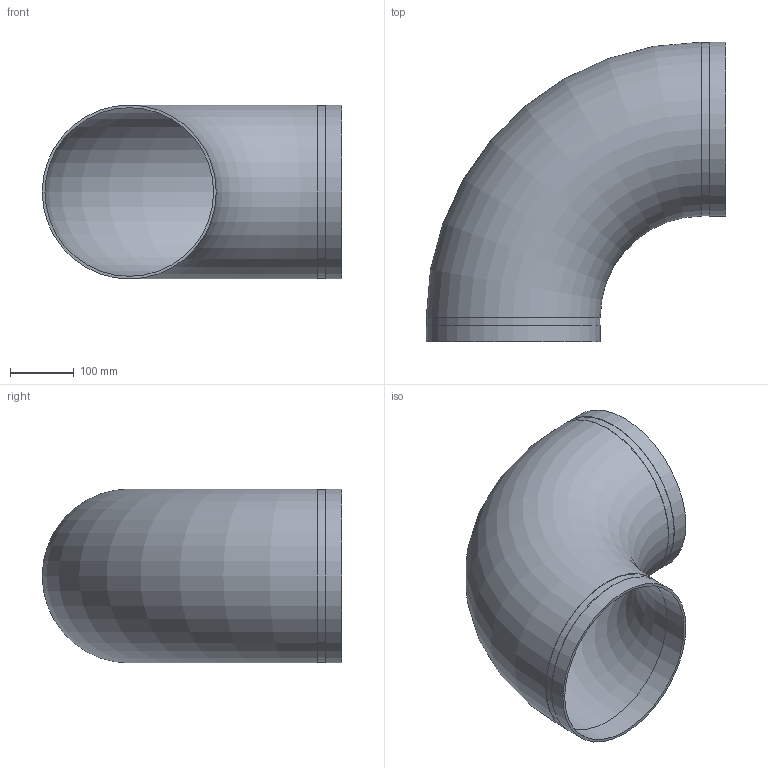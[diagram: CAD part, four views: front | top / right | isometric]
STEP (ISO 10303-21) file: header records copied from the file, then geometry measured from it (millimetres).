
FILE_DESCRIPTION(/* description */ ('VIC 90 DEG ELBOW STYLE 401DX','CAx-IF Rec.Pracs.---Representation and Presentation of Product Manufacturing Information (PMI)---4.0---2014-10-13'),/* implementation_level */ '2;1');
FILE_NAME(/* name */ 'C:\Users\kkamble\AppData\Roaming\Autodesk\ApplicationPlugins\Back Up\Victaulic_SS-StrengThin_Elbow 90 Deg_No 401DX (STG)\Victaulic_SS-StrengThin_Elbow 90 Deg_No 401DX (STG)_10 (250).stp',/* time_stamp */ '2020-08-17T13:28:24+06:00',/* author */ ('cps_temp'),/* organization */ ('Victaulic'),/* preprocessor_version */ 'ST-DEVELOPER v17.2',/* originating_system */ 'Autodesk Inventor 2019',/* authorisation */ '');
FILE_SCHEMA (('AP242_MANAGED_MODEL_BASED_3D_ENGINEERING_MIM_LF { 1 0 10303 442 1 1 4 }'));
Length unit declared in the file: inch
Products named in the file (1): 401DX-10.0
Bounding box: 470.03 x 470.03 x 273.05 mm (x, y, z)
Volume: 1898513.4 mm3; surface area: 921734.9 mm2
Topology: 1 solids, 1 shells, 14 faces, 30 edges, 22 vertices
Faces by surface type: plane 6, cylinder 6, torus 2
Full cylindrical faces by diameter (mm): 264.668 x2, 271.78 x2, 273.05 x2
Entity records: 556 total; most frequent: DIRECTION 110, CARTESIAN_POINT 84, ORIENTED_EDGE 60, AXIS2_PLACEMENT_3D 52, EDGE_CURVE 30, CIRCLE 24, VERTEX_POINT 22, EDGE_LOOP 20
